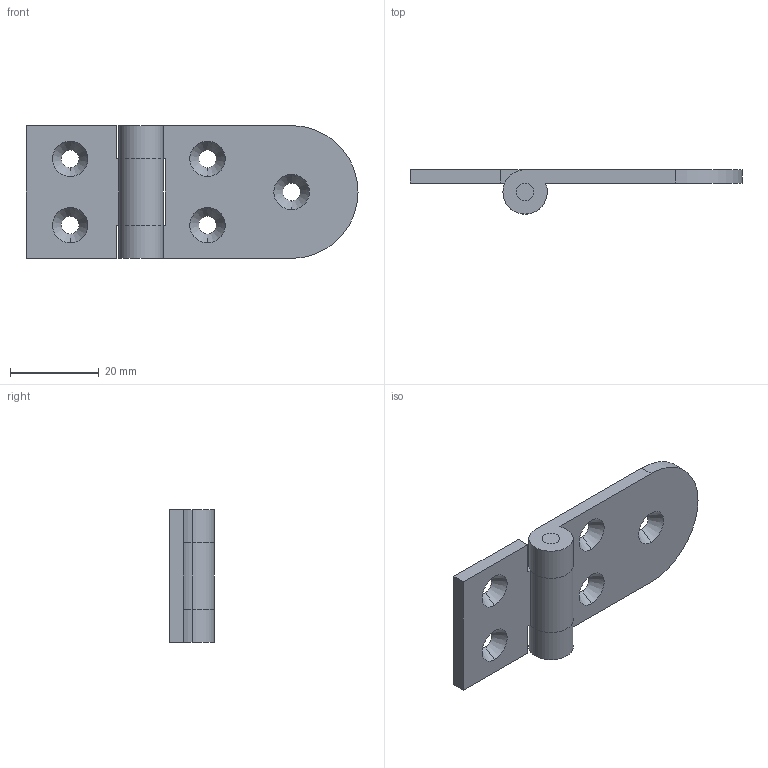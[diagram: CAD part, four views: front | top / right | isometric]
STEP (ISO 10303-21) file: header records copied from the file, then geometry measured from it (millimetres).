
FILE_DESCRIPTION((''),'2;1');
FILE_NAME('6025.01.stp','2015-07-17T16:00:36',(''),(''),'Mechanical Desktop 2006','Mechanical Desktop 2006',', , ');
FILE_SCHEMA(('CONFIG_CONTROL_DESIGN'));
Length unit declared in the file: millimetre
Products named in the file (1): 6025.01
Bounding box: 75 x 10 x 30 mm (x, y, z)
Volume: 7584.4 mm3; surface area: 6086.5 mm2
Topology: 2 solids, 2 shells, 47 faces, 123 edges, 82 vertices
Faces by surface type: cylinder 19, plane 18, cone 10
Entity records: 1596 total; most frequent: DIRECTION 277, CARTESIAN_POINT 253, ORIENTED_EDGE 246, EDGE_CURVE 123, AXIS2_PLACEMENT_3D 106, VERTEX_POINT 82, VECTOR 65, LINE 65
